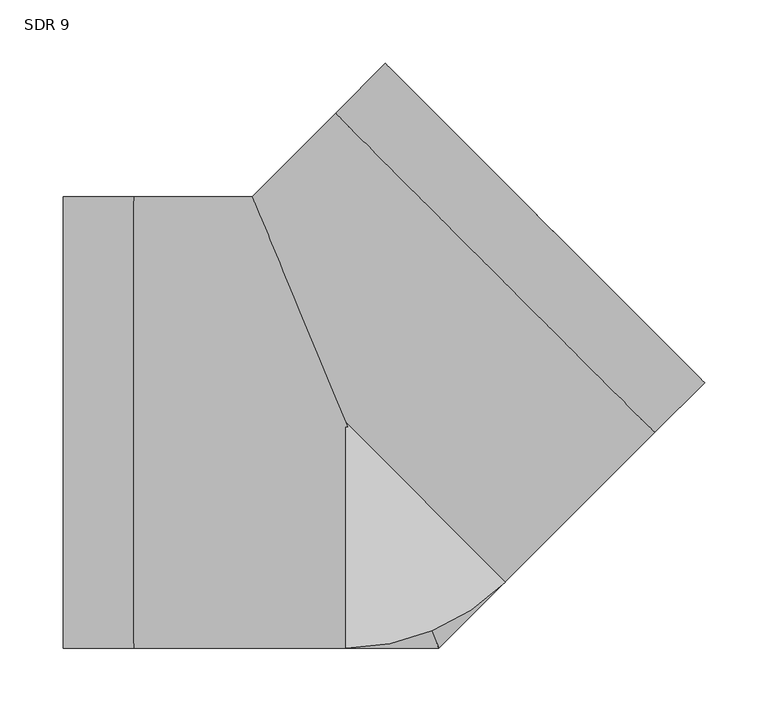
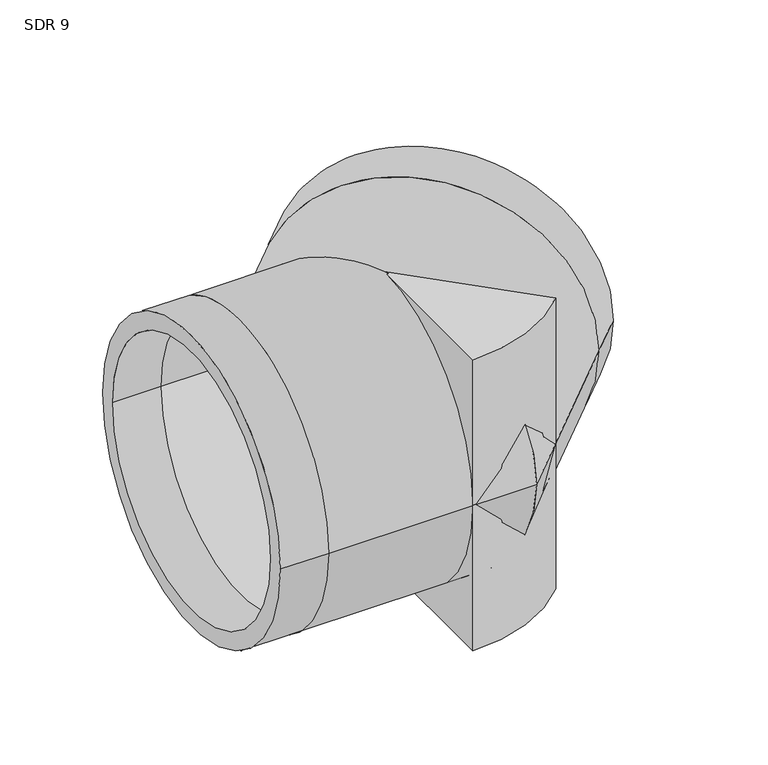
"""IFC4 building model written with IfcOpenShell, lengths in millimetres: pipe fitting geometry, Aquatherm - Elbow Blue BW Segmented : SDR 9."""

from ifc_helpers import new_model, si_unit, point, frame, origin, origin_with_axes, origin_2d, place, context, project, spatial, polyline, circle_curve, ellipse_curve, trimmed, segment, composite_curve, outline, extrude, source, transform, mapped, element, save
from ifc_brep_helpers import plane_surface, cylinder_surface, revolved_surface, advanced_brep


def sdr_9_1ead8935(model_context):
    return source(origin(), model_context, "Body", "SolidModel", [
        extrude(outline(composite_curve([segment(polyline([(0.0, -177.8), (0.0, 0.0), (125.7235857, -125.7235857)]), True, "CONTINUOUS"), segment(trimmed(circle_curve(origin_2d(), 177.8), [point((125.7235857, -125.7235857))], [point((0.0, -177.8))], False, "CARTESIAN"), True, "CONTINUOUS")], self_intersect=False)), frame((0.0, 0.0, -177.8), z_axis=(0.0, 0.0, 1.0), x_axis=(1.0, 0.0, 0.0)), (0.0, 0.0, 1.0), 177.8),
        extrude(outline(composite_curve([segment(trimmed(circle_curve(origin_2d(), 177.8), [point((125.7235857, -125.7235857))], [point((0.0, -177.8))], False, "CARTESIAN"), True, "CONTINUOUS"), segment(polyline([(0.0, -177.8), (0.0, 0.0), (125.7235857, -125.7235857)]), True, "CONTINUOUS")], self_intersect=False)), origin_with_axes(), (0.0, 0.0, 1.0), 177.8),
        advanced_brep(
        [(-222.25, -177.8, 0.0), (-222.25, 177.8, 0.0), (-222.25, -157.5972481, 0.0), (-222.25, 157.5972481, 0.0), (282.8780678, 31.4308964, 0.0), (31.4308964, 282.8780678, 0.0), (268.592565, 45.7163993, 0.0), (45.7163993, 268.592565, 0.0), (-166.6875, -177.8, 0.0), (-166.6875, 177.8, 0.0), (-166.6875, -157.5972481, 0.0), (-166.6875, 157.5972481, 0.0), (73.6471714, -177.8, 0.0), (-73.6471714, 177.8, 0.0), (65.2789176, -157.5972481, 0.0), (-65.2789176, 157.5972481, 0.0), (243.5894473, -7.8577241, 0.0), (-7.8577241, 243.5894473, 0.0), (229.3039444, 6.4277788, 0.0), (6.4277788, 229.3039444, 0.0)],
        [
            (0, 1, circle_curve(frame((-222.25, 0.0, 0.0), z_axis=(-1.0, 0.0, 0.0), x_axis=(0.0, 1.0, 0.0)), 177.8)),
            (1, 0, circle_curve(frame((-222.25, 0.0, 0.0), z_axis=(-1.0, 0.0, 0.0), x_axis=(0.0, 1.0, 0.0)), 177.8)),
            (2, 3, circle_curve(frame((-222.25, 0.0, 0.0), z_axis=(1.0, 0.0, 0.0), x_axis=(0.0, 1.0, 0.0)), 157.5972481)),
            (3, 2, circle_curve(frame((-222.25, 0.0, 0.0), z_axis=(1.0, 0.0, 0.0), x_axis=(0.0, 1.0, 0.0)), 157.5972481)),
            (4, 5, circle_curve(frame((157.1544821, 157.1544821, 0.0), z_axis=(0.7071067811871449, 0.7071067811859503, 0.0), x_axis=(-0.7071067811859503, 0.7071067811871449, 0.0)), 177.8)),
            (5, 4, circle_curve(frame((157.1544821, 157.1544821, 0.0), z_axis=(0.7071067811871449, 0.7071067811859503, 0.0), x_axis=(-0.7071067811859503, 0.7071067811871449, 0.0)), 177.8)),
            (6, 7, circle_curve(frame((157.1544821, 157.1544821, 0.0), z_axis=(-0.7071067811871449, -0.7071067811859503, 0.0), x_axis=(-0.7071067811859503, 0.7071067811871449, 0.0)), 157.5972481)),
            (7, 6, circle_curve(frame((157.1544821, 157.1544821, 0.0), z_axis=(-0.7071067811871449, -0.7071067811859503, 0.0), x_axis=(-0.7071067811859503, 0.7071067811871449, 0.0)), 157.5972481)),
            (0, 8),
            (8, 9, circle_curve(frame((-166.6875, 0.0, 0.0), z_axis=(-1.0, 0.0, 0.0), x_axis=(0.0, 1.0, 0.0)), 177.8)),
            (9, 1),
            (9, 8, circle_curve(frame((-166.6875, 0.0, 0.0), z_axis=(-1.0, 0.0, 0.0), x_axis=(0.0, 1.0, 0.0)), 177.8)),
            (2, 10),
            (10, 11, circle_curve(frame((-166.6875, 0.0, 0.0), z_axis=(1.0, 0.0, 0.0), x_axis=(0.0, 1.0, 0.0)), 157.5972481)),
            (11, 3),
            (11, 10, circle_curve(frame((-166.6875, 0.0, 0.0), z_axis=(1.0, 0.0, 0.0), x_axis=(0.0, 1.0, 0.0)), 157.5972481)),
            (8, 12),
            (12, 13, ellipse_curve(frame((0.0, 0.0, 0.0), z_axis=(-0.9238795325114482, -0.3826834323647, 0.0), x_axis=(-0.3826834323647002, 0.9238795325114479, 0.0)), 192.4493332, 177.8)),
            (13, 9),
            (13, 12, ellipse_curve(frame((0.0, 0.0, 0.0), z_axis=(-0.9238795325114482, -0.3826834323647, 0.0), x_axis=(-0.3826834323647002, 0.9238795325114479, 0.0)), 192.4493332, 177.8)),
            (10, 14),
            (14, 15, ellipse_curve(frame((0.0, 0.0, 0.0), z_axis=(0.9238795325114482, 0.3826834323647, 0.0), x_axis=(0.3826834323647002, -0.9238795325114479, 0.0)), 170.5820321, 157.5972481)),
            (15, 11),
            (15, 14, ellipse_curve(frame((0.0, 0.0, 0.0), z_axis=(0.9238795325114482, 0.3826834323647, 0.0), x_axis=(0.3826834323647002, -0.9238795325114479, 0.0)), 170.5820321, 157.5972481)),
            (12, 16),
            (16, 17, circle_curve(frame((117.8658616, 117.8658616, 0.0), z_axis=(-0.7071067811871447, -0.7071067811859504, 0.0), x_axis=(-0.7071067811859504, 0.7071067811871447, 0.0)), 177.8)),
            (17, 13),
            (17, 16, circle_curve(frame((117.8658616, 117.8658616, 0.0), z_axis=(-0.7071067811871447, -0.7071067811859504, 0.0), x_axis=(-0.7071067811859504, 0.7071067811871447, 0.0)), 177.8)),
            (14, 18),
            (18, 19, circle_curve(frame((117.8658616, 117.8658616, 0.0), z_axis=(0.7071067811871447, 0.7071067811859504, 0.0), x_axis=(-0.7071067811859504, 0.7071067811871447, 0.0)), 157.5972481)),
            (19, 15),
            (19, 18, circle_curve(frame((117.8658616, 117.8658616, 0.0), z_axis=(0.7071067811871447, 0.7071067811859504, 0.0), x_axis=(-0.7071067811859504, 0.7071067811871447, 0.0)), 157.5972481)),
            (16, 4),
            (5, 17),
            (18, 6),
            (7, 19),
        ],
        [
            plane_surface(frame((-222.25, 0.0, 0.0), z_axis=(-1.0, 0.0, 0.0), x_axis=(0.0, 0.0, 1.0))),
            plane_surface(frame((157.1544821, 157.1544821, 0.0), z_axis=(0.7071067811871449, 0.7071067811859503, 0.0), x_axis=(0.0, 0.0, 1.0))),
            cylinder_surface(frame((-222.25, 0.0, 0.0), z_axis=(-1.0, 0.0, 0.0), x_axis=(0.0, 1.0, 0.0)), 177.8),
            revolved_surface(polyline([(-166.6875, 157.5972481, 0.0), (-222.25, 157.5972481, 0.0)]), (-222.25, 0.0, 0.0), (1.0, 0.0, 0.0)),
            cylinder_surface(frame((-166.6875, 0.0, 0.0), z_axis=(-1.0, 0.0, 0.0), x_axis=(0.0, 1.0, 0.0)), 177.8),
            revolved_surface(polyline([(65.2789176, 157.5972481, 0.0), (-166.6875, 157.5972481, 0.0)]), (-166.6875, 0.0, 0.0), (1.0, 0.0, 0.0)),
            cylinder_surface(frame((0.0, 0.0, 0.0), z_axis=(-0.7071067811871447, -0.7071067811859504, 0.0), x_axis=(-0.7071067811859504, 0.7071067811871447, 0.0)), 177.8),
            revolved_surface(polyline([(6.427778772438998, 229.30394442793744, 0.0), (-157.59724809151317, 65.27891756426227, 0.0)]), (0.0, 0.0, 0.0), (0.7071067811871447, 0.7071067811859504, 0.0)),
            cylinder_surface(frame((117.8658616, 117.8658616, 0.0), z_axis=(-0.7071067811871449, -0.7071067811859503, 0.0), x_axis=(-0.7071067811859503, 0.7071067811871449, 0.0)), 177.8),
            revolved_surface(polyline([(45.716399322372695, 268.5925649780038, 0.0), (6.427778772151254, 229.30394442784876, 0.0)]), (117.8658616, 117.8658616, 0.0), (0.7071067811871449, 0.7071067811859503, 0.0)),
        ],
        [
            (0, [[1, 2], [3, 4]]),
            (1, [[5, 6], [7, 8]]),
            (2, [[-1, 9, 10, 11]]),
            (2, [[-2, -11, 12, -9]]),
            (3, [[-3, 13, 14, 15]]),
            (3, [[-4, -15, 16, -13]]),
            (4, [[-10, 17, 18, 19]]),
            (4, [[-12, -19, 20, -17]]),
            (5, [[-14, 21, 22, 23]]),
            (5, [[-16, -23, 24, -21]]),
            (6, [[-18, 25, 26, 27]]),
            (6, [[-20, -27, 28, -25]]),
            (7, [[-22, 29, 30, 31]]),
            (7, [[-24, -31, 32, -29]]),
            (8, [[-26, 33, -6, 34]]),
            (8, [[-28, -34, -5, -33]]),
            (9, [[-30, 35, -8, 36]]),
            (9, [[-32, -36, -7, -35]]),
        ],
    ),
    ])


if __name__ == "__main__":
    model = new_model("IFC4")
    model_context = context("Model", 3, world=origin())
    ifc_project = project(units=[si_unit("LENGTHUNIT", "METRE", prefix="MILLI")], contexts=[model_context])
    site = spatial("IfcSite", under=ifc_project)
    building = spatial("IfcBuilding", under=site)
    placement = place(None, origin())
    sdr_9_shape = sdr_9_1ead8935(model_context)
    element("IfcPipeFitting", 1, ObjectType="Aquatherm - Elbow Blue BW Segmented : SDR 9", at=placement, inside=building, context=model_context, shape_type="MappedRepresentation", body=[
        mapped(sdr_9_shape, transform((0.0, 0.0, 0.0), x_axis=(1.0, 0.0, 0.0), y_axis=(0.0, 1.0, 0.0), z_axis=(0.0, 0.0, 1.0))),
    ])
    save(model, "model.ifc")
